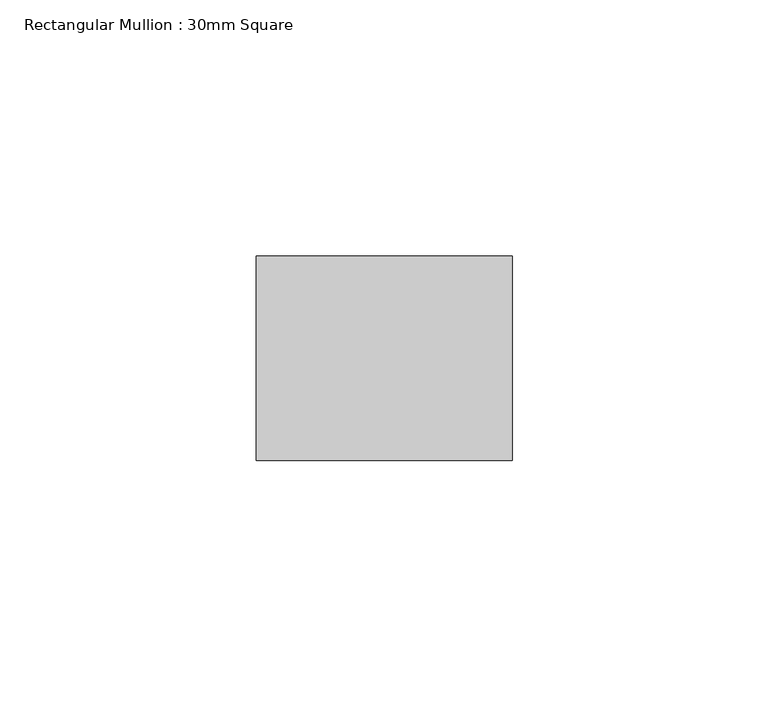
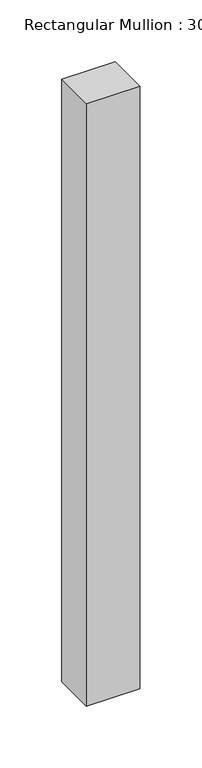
"""IFC4 building model written with IfcOpenShell, lengths in millimetres: member geometry, Rectangular Mullion : 30mm Square."""

import ifcopenshell
import ifcopenshell.guid

model = None  # the IFC model being written
_history = None  # IfcOwnerHistory: only IFC2X3 demands one
_inside = {}  # id of a spatial element -> (the spatial element, [elements in it])
_under = {}  # id of a project, library or spatial element -> (it, [spatial elements below it])
_declared = {}  # id of a project -> (the project, [libraries it declares])
_typed = {}  # id of a type object -> (the type object, [elements of that type])
_made_of = {}  # id of a material, layer set ... -> (it, [elements and type objects made of it])


def new_model(schema):
    """Start an empty IFC model of exactly this schema.

    Asked for "IFC4X3", IfcOpenShell would pick the latest addendum, in which some entities
    have other attributes; the version numbers below select the first issue.
    IFC2X3 requires an IfcOwnerHistory on every rooted entity: one is made here for all.
    """
    global model, _history
    if schema == "IFC4X3":
        model = ifcopenshell.file(schema_version=(4, 3, 0, 0))
    else:
        model = ifcopenshell.file(schema=schema)
    _inside.clear()
    _under.clear()
    _declared.clear()
    _typed.clear()
    _made_of.clear()
    _history = None
    if model.schema == "IFC2X3":
        org = make("IfcOrganization", Name="unknown")
        user = make(
            "IfcPersonAndOrganization",
            ThePerson=make("IfcPerson", FamilyName="unknown"),
            TheOrganization=org,
        )
        app = make(
            "IfcApplication",
            ApplicationDeveloper=org,
            Version="unknown",
            ApplicationFullName="unknown",
            ApplicationIdentifier="unknown",
        )
        _history = make(
            "IfcOwnerHistory",
            OwningUser=user,
            OwningApplication=app,
            ChangeAction="ADDED",
            CreationDate=0,
        )
    return model


def make(cls, **values):
    """One entity of the class cls with the attributes given. An attribute that is None is left unset."""
    return model.create_entity(
        cls, **{name: value for name, value in values.items() if value is not None}
    )


def rooted(cls, **values):
    """An entity with a GlobalId (a new one), such as an element, a storey or a relation."""
    return make(cls, GlobalId=ifcopenshell.guid.new(), OwnerHistory=_history, **values)


def si_unit(unit_type, name, prefix=None):
    """IfcSIUnit, for example si_unit("LENGTHUNIT", "METRE", prefix="MILLI")."""
    return make("IfcSIUnit", UnitType=unit_type, Prefix=prefix, Name=name)


def assignment(units):
    """IfcUnitAssignment: the units of a project."""
    return None if units is None else make("IfcUnitAssignment", Units=units)


def point(xyz):
    """IfcCartesianPoint."""
    return None if xyz is None else make("IfcCartesianPoint", Coordinates=xyz)


def direction(xyz):
    """IfcDirection."""
    return None if xyz is None else make("IfcDirection", DirectionRatios=xyz)


def frame(location, z_axis=None, x_axis=None):
    """IfcAxis2Placement3D, a coordinate frame: its origin and axes. An axis left out is left unset."""
    return make(
        "IfcAxis2Placement3D",
        Location=point(location),
        Axis=direction(z_axis),
        RefDirection=direction(x_axis),
    )


def origin():
    """The frame at (0, 0, 0) with its axes left unset."""
    return frame((0.0, 0.0, 0.0))


def place(relative_to, where):
    """IfcLocalPlacement: puts the frame where relative to a parent placement (None: the world)."""
    return make(
        "IfcLocalPlacement", PlacementRelTo=relative_to, RelativePlacement=where
    )


def context(
    kind, dimensions, precision=None, world=None, true_north=None, identifier=None
):
    """IfcGeometricRepresentationContext, for example the 3D "Model" context."""
    return make(
        "IfcGeometricRepresentationContext",
        ContextIdentifier=identifier,
        ContextType=kind,
        CoordinateSpaceDimension=dimensions,
        Precision=precision,
        WorldCoordinateSystem=world,
        TrueNorth=true_north,
    )


def project(units=None, contexts=None):
    """IfcProject with its units and contexts."""
    return rooted(
        "IfcProject",
        Name="project",
        RepresentationContexts=contexts,
        UnitsInContext=assignment(units),
    )


def spatial(cls, under=None, at=None, **own):
    """A site, building, storey or space (cls), placed at a placement, below another one or the project."""
    s = rooted(cls, ObjectPlacement=at, **own)
    if under is not None:
        _under.setdefault(under.id(), (under, []))[1].append(s)
    return s


def polyline(points):
    """IfcPolyline through the points."""
    return make("IfcPolyline", Points=[point(p) for p in points])


def outline(outer, holes=None, kind="AREA"):
    """IfcArbitraryClosedProfileDef: a profile drawn as a closed curve; with holes, ...WithVoids."""
    if holes is None:
        return make("IfcArbitraryClosedProfileDef", ProfileType=kind, OuterCurve=outer)
    return make(
        "IfcArbitraryProfileDefWithVoids",
        ProfileType=kind,
        OuterCurve=outer,
        InnerCurves=holes,
    )


def extrude(swept, where, along, depth):
    """IfcExtrudedAreaSolid: the profile swept, set in the frame where, extruded along a direction by depth."""
    return make(
        "IfcExtrudedAreaSolid",
        SweptArea=swept,
        Position=where,
        ExtrudedDirection=direction(along),
        Depth=depth,
    )


def shape(context_of_items, identifier, shape_type, items):
    """IfcShapeRepresentation: the items that make up one representation, for example the "Body"."""
    return make(
        "IfcShapeRepresentation",
        ContextOfItems=context_of_items,
        RepresentationIdentifier=identifier,
        RepresentationType=shape_type,
        Items=items,
    )


def source(mapping_origin, context_of_items, identifier, shape_type, items):
    """IfcRepresentationMap: a shape defined once, which mapped items show again and again."""
    return make(
        "IfcRepresentationMap",
        MappingOrigin=mapping_origin,
        MappedRepresentation=shape(context_of_items, identifier, shape_type, items),
    )


def transform(
    local_origin,
    x_axis=None,
    y_axis=None,
    z_axis=None,
    scale=None,
    scale2=None,
    scale3=None,
    uniform=True,
):
    """IfcCartesianTransformationOperator3D, or its non-uniform kind. x_axis, y_axis, z_axis: its Axis1, 2, 3."""
    if uniform:
        return make(
            "IfcCartesianTransformationOperator3D",
            Axis1=direction(x_axis),
            Axis2=direction(y_axis),
            LocalOrigin=point(local_origin),
            Scale=scale,
            Axis3=direction(z_axis),
        )
    return make(
        "IfcCartesianTransformationOperator3DnonUniform",
        Axis1=direction(x_axis),
        Axis2=direction(y_axis),
        LocalOrigin=point(local_origin),
        Scale=scale,
        Axis3=direction(z_axis),
        Scale2=scale2,
        Scale3=scale3,
    )


def mapped(mapping_source, mapping_target):
    """IfcMappedItem: shows the shape of a source again, moved by a transform."""
    return make(
        "IfcMappedItem", MappingSource=mapping_source, MappingTarget=mapping_target
    )


def made_of(thing, what):
    """Note that an element or type object is made of a material, layer set ...; save() writes the relation."""
    if what is not None:
        _made_of.setdefault(what.id(), (what, []))[1].append(thing)
    return thing


def element(
    cls,
    number,
    at=None,
    inside=None,
    cuts=None,
    type_object=None,
    material=None,
    context=None,
    identifier="Body",
    shape_type=None,
    held_by="IfcProductDefinitionShape",
    body=None,
    shapes=None,
    **own,
):
    """One element of the class cls, such as IfcWall. Its Tag is "e" and its number.

    at: its placement. inside: the storey or other place that contains it. cuts: it is an
    opening in that element (IfcRelVoidsElement). A single representation is given by context,
    identifier, shape_type and body (its items); several are given by shapes. held_by: the class
    of the entity that holds the representations. save() writes the other relations.
    """
    e = rooted(cls, Tag="e%d" % number, ObjectPlacement=at, **own)
    if body is not None:
        shapes = [shape(context, identifier, shape_type, body)]
    if shapes is not None:
        e.Representation = make(held_by, Representations=shapes)
    if inside is not None:
        _inside.setdefault(inside.id(), (inside, []))[1].append(e)
    if cuts is not None:
        rooted(
            "IfcRelVoidsElement", RelatingBuildingElement=cuts, RelatedOpeningElement=e
        )
    if type_object is not None:
        _typed.setdefault(type_object.id(), (type_object, []))[1].append(e)
    return made_of(e, material)


def aggregate(whole, parts):
    """IfcRelAggregates: a whole, such as a stair, and the parts it consists of."""
    return rooted("IfcRelAggregates", RelatingObject=whole, RelatedObjects=parts)


def save(model, path):
    """Write the relations noted so far, then the file.

    IfcRelAggregates (storeys below a building ...), IfcRelContainedInSpatialStructure (elements
    in a storey), IfcRelDefinesByType, IfcRelAssociatesMaterial and IfcRelDeclares: one each for
    every whole, place, type object, material and project.
    """
    for whole, parts in _under.values():
        aggregate(whole, parts)
    for where, things in _inside.values():
        rooted(
            "IfcRelContainedInSpatialStructure",
            RelatedElements=things,
            RelatingStructure=where,
        )
    for kind, things in _typed.values():
        rooted("IfcRelDefinesByType", RelatedObjects=things, RelatingType=kind)
    for what, things in _made_of.values():
        rooted("IfcRelAssociatesMaterial", RelatedObjects=things, RelatingMaterial=what)
    for by, libraries in _declared.values():
        rooted("IfcRelDeclares", RelatingContext=by, RelatedDefinitions=libraries)
    model.write(path)


def rectangular_mullion_30mm_square_9ec87c27(model_context):
    return source(origin(), model_context, "Body", "SweptSolid", [
        extrude(outline(polyline([(0.0, 20.0), (0.0, -20.0), (-50.0, -20.0), (-50.0, 20.0), (0.0, 20.0)])), frame((0.0, 0.0, -595.9351012), z_axis=(0.0, 0.0, 1.0), x_axis=(1.0, 0.0, 0.0)), (0.0, 0.0, 1.0), 595.9351012),
    ])


if __name__ == "__main__":
    model = new_model("IFC4")
    model_context = context("Model", 3, world=origin())
    ifc_project = project(units=[si_unit("LENGTHUNIT", "METRE", prefix="MILLI")], contexts=[model_context])
    site = spatial("IfcSite", under=ifc_project)
    building = spatial("IfcBuilding", under=site)
    placement = place(None, origin())
    rectangular_mullion_30mm_square_shape = rectangular_mullion_30mm_square_9ec87c27(model_context)
    element("IfcMember", 1, ObjectType="Rectangular Mullion : 30mm Square", at=placement, inside=building, context=model_context, shape_type="MappedRepresentation", body=[
        mapped(rectangular_mullion_30mm_square_shape, transform((0.0, 0.0, 0.0), x_axis=(1.0, 0.0, 0.0), y_axis=(0.0, 1.0, 0.0), z_axis=(0.0, 0.0, 1.0))),
    ])
    save(model, "model.ifc")
